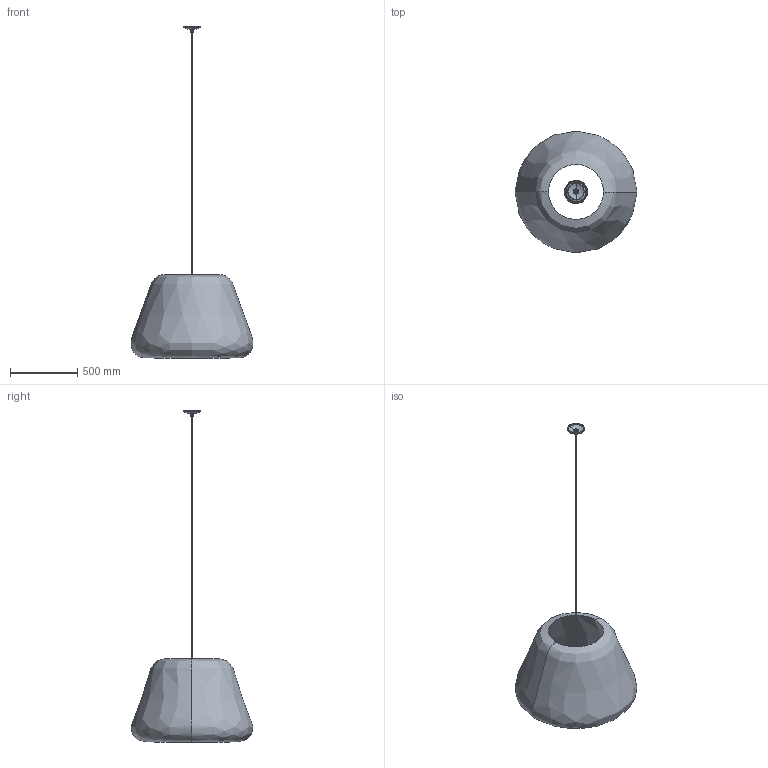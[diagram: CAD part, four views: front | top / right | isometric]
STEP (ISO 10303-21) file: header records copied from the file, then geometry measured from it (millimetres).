
FILE_DESCRIPTION(/* description */ (''),/* implementation_level */ '2;1');
FILE_NAME(/* name */ 'EC04744.090.0000',/* time_stamp */ '2024-10-22T10:22:46+02:00',/* author */ (''),/* organization */ (''),/* preprocessor_version */ 'ST-DEVELOPER v16.5',/* originating_system */ '',/* authorisation */ '');
FILE_SCHEMA (('AUTOMOTIVE_DESIGN'));
Length unit declared in the file: millimetre
Products named in the file (1): Document
Bounding box: 905.51 x 905.92 x 2466.25 mm (x, y, z)
Volume: 385090.2 mm3; surface area: 2319628.9 mm2
Topology: 13 solids, 14 shells, 1048 faces, 2590 edges, 1591 vertices
Faces by surface type: bspline 528, plane 520
Entity records: 45745 total; most frequent: CARTESIAN_POINT 30053, ORIENTED_EDGE 5128, EDGE_CURVE 2566, VERTEX_POINT 1591, B_SPLINE_CURVE_WITH_KNOTS 1432, EDGE_LOOP 1125, ADVANCED_FACE 1048, FACE_OUTER_BOUND 1048
